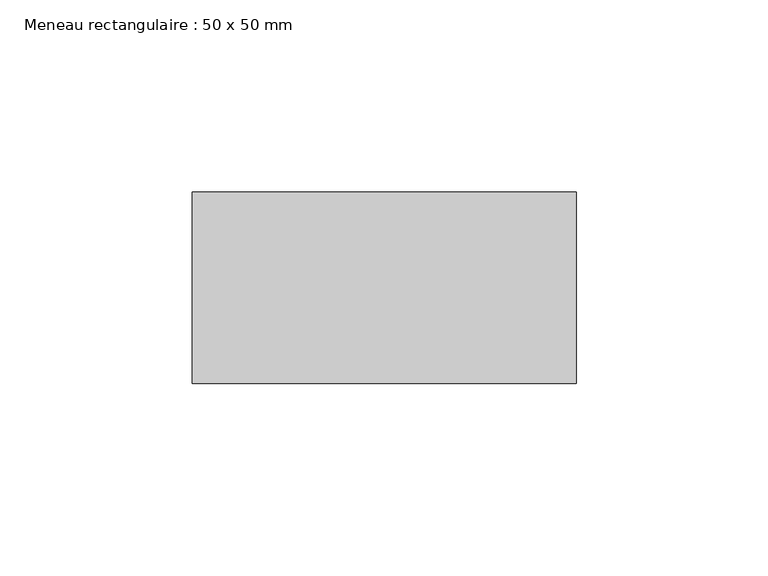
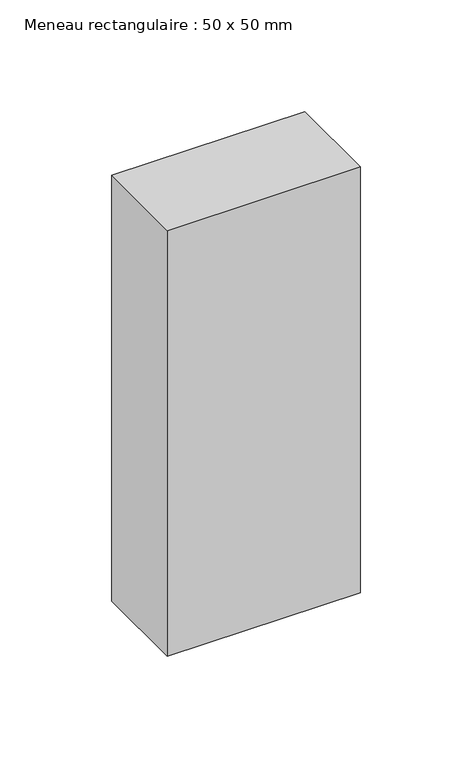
"""IFC4 building model written with IfcOpenShell, lengths in millimetres: member geometry, Meneau rectangulaire : 50 x 50 mm."""

from ifc_helpers import new_model, si_unit, frame, origin, place, context, project, spatial, polyline, outline, extrude, source, transform, mapped, element, save


def meneau_rectangulaire_50_x_50_mm_040b037e(model_context):
    return source(origin(), model_context, "Body", "SweptSolid", [
        extrude(outline(polyline([(0.0, 0.0), (0.0, -50.0), (-100.0, -50.0), (-100.0, 0.0), (0.0, 0.0)])), frame((0.0, 0.0, -233.0), z_axis=(0.0, 0.0, 1.0), x_axis=(1.0, 0.0, 0.0)), (0.0, 0.0, 1.0), 233.0),
    ])


if __name__ == "__main__":
    model = new_model("IFC4")
    model_context = context("Model", 3, world=origin())
    ifc_project = project(units=[si_unit("LENGTHUNIT", "METRE", prefix="MILLI")], contexts=[model_context])
    site = spatial("IfcSite", under=ifc_project)
    building = spatial("IfcBuilding", under=site)
    placement = place(None, origin())
    meneau_rectangulaire_50_x_50_mm_shape = meneau_rectangulaire_50_x_50_mm_040b037e(model_context)
    element("IfcMember", 1, ObjectType="Meneau rectangulaire : 50 x 50 mm", at=placement, inside=building, context=model_context, shape_type="MappedRepresentation", body=[
        mapped(meneau_rectangulaire_50_x_50_mm_shape, transform((0.0, 0.0, 0.0), x_axis=(1.0, 0.0, 0.0), y_axis=(0.0, 1.0, 0.0), z_axis=(0.0, 0.0, 1.0))),
    ])
    save(model, "model.ifc")
